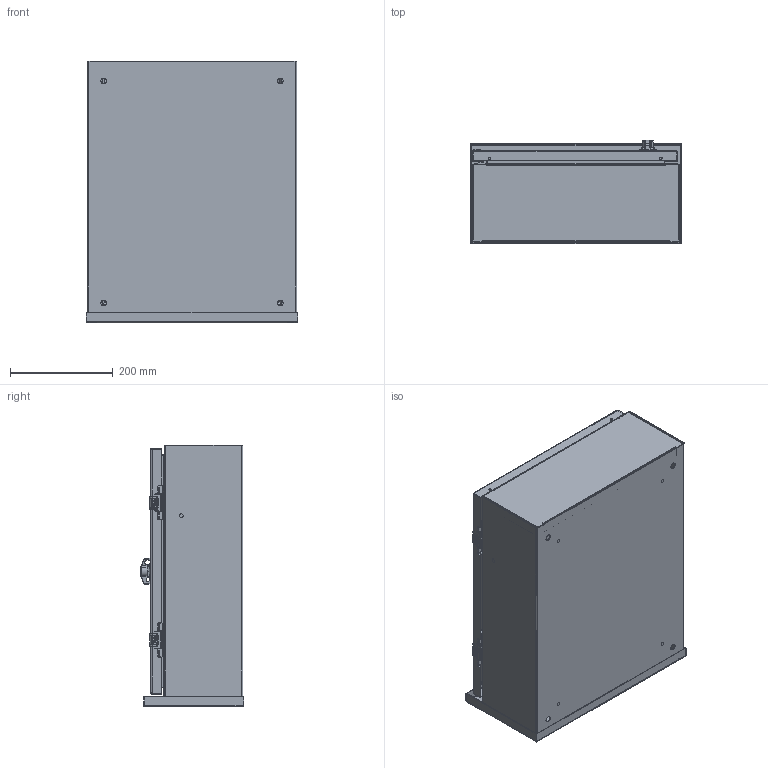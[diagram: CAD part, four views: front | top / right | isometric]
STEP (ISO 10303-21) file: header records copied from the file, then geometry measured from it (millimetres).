
FILE_DESCRIPTION((''),'2;1');
FILE_NAME('MODEL-385_ASM','2026-08-24T13:24:17',('richards'),('SAGINAW CONTROL & ENGINEERING'),'CREO PARAMETRIC BY PTC INC, 2021284','CREO PARAMETRIC BY PTC INC, 2021284','');
FILE_SCHEMA(('AUTOMOTIVE_DESIGN { 1 0 10303 214 1 1 1 1 }'));
Length unit declared in the file: inch
Products named in the file (29): MODEL-385-BDY; MODEL-385-BTM; MODEL-385-TP-FLNG; MODEL-385-TP; MODEL-385-DR; 105260_SHAFT; 105260_O-RING; 105260_HANDLE; 105260_CAM; 105260_NUT; 105260_SCREW; 105260_ASM; 100837; MODEL-385-GSKT; 126391; 126391_ASM; 126393; 101376; 101226; 102483; 102140; 132757; 125597; MODEL-385-DOOR-ASSY_ASM; 101651; SUBPANEL; 100904; SUBPANEL-SUBASSEMBLY_ASM; MODEL-385_ASM
Assembly tree (46 placements, depth 4):
  MODEL-385_ASM
    MODEL-385-BDY
    MODEL-385-BTM
    MODEL-385-TP-FLNG
    MODEL-385-TP
    MODEL-385-DOOR-ASSY_ASM
      MODEL-385-DR
      105260_ASM
        105260_SHAFT
        105260_O-RING
        105260_HANDLE
        105260_CAM
        105260_NUT
        105260_SCREW
      100837
      MODEL-385-GSKT
      126391_ASM  x2
        126391
      126393  x2
      101376  x2
      101226  x2
      102483  x6
      102140  x2
      132757  x2
      125597
    100837
    101651  x4
    SUBPANEL-SUBASSEMBLY_ASM
      SUBPANEL
      100904  x4
Bounding box: 410.36 x 200.79 x 508 mm (x, y, z)
Volume: 1790013.5 mm3; surface area: 2124880 mm2
Topology: 44 solids, 44 shells, 2111 faces, 5349 edges, 3366 vertices
Faces by surface type: plane 943, cylinder 719, torus 182, bspline 137, cone 86, sphere 44
Entity records: 69455 total; most frequent: CARTESIAN_POINT 16996, DIRECTION 7796, ORIENTED_EDGE 7510, EDGE_CURVE 3755, PRESENTATION_STYLE_ASSIGNMENT 3672, STYLED_ITEM 3607, CURVE_STYLE 3481, AXIS2_PLACEMENT_3D 2821
